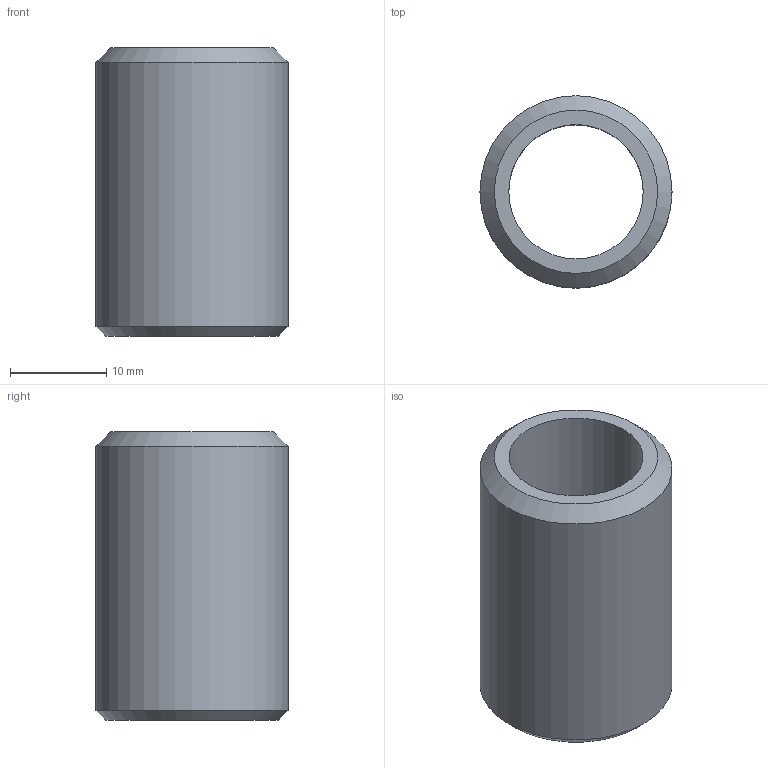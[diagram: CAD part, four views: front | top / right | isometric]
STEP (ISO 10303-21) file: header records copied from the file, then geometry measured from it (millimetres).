
FILE_DESCRIPTION(/* description */ ('','CAx-IF Rec.Pracs.---Representation and Presentation of Product Manufacturing Information (PMI)---4.0---2014-10-13'),/* implementation_level */ '2;1');
FILE_NAME(/* name */ 'rod30.step',/* time_stamp */ '2025-03-18T20:44:02+01:00',/* author */ (''),/* organization */ (''),/* preprocessor_version */ 'ST-DEVELOPER v20',/* originating_system */ 'Autodesk Translation Framework v13.20.0.188',/* authorisation */ '');
FILE_SCHEMA (('AP242_MANAGED_MODEL_BASED_3D_ENGINEERING_MIM_LF { 1 0 10303 442 1 1 4 }'));
Length unit declared in the file: millimetre
Products named in the file (1): rod
Bounding box: 20 x 20 x 30 mm (x, y, z)
Volume: 4709.1 mm3; surface area: 3428.6 mm2
Topology: 1 solids, 1 shells, 6 faces, 10 edges, 6 vertices
Faces by surface type: cylinder 2, cone 2, plane 2
Full cylindrical faces by diameter (mm): 14 x1, 20 x1
Entity records: 181 total; most frequent: DIRECTION 30, CARTESIAN_POINT 23, ORIENTED_EDGE 20, AXIS2_PLACEMENT_3D 13, EDGE_CURVE 10, EDGE_LOOP 8, FACE_OUTER_BOUND 6, CIRCLE 6
